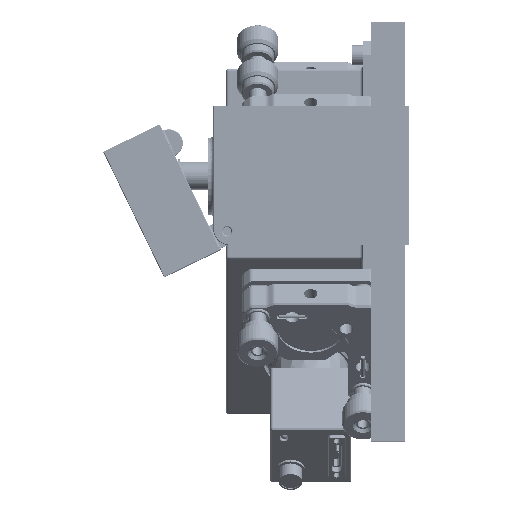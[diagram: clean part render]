
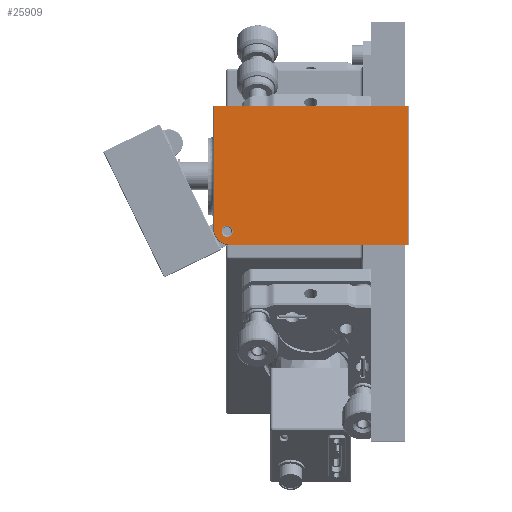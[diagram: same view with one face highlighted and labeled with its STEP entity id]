
A CAD part, top view. The second image highlights one B-rep face of the part: STEP entity #25909.
In plain terms, the highlighted planar face has unit normal (0, 0, 1).
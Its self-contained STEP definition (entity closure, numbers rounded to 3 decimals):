
#4674 = FACE_BOUND ( 'NONE', #111087, .T. ) ;
#7038 = VERTEX_POINT ( 'NONE', #43471 ) ;
#14114 = EDGE_CURVE ( 'NONE', #21475, #86491, #111785, .T. ) ;
#15021 = EDGE_CURVE ( 'NONE', #7038, #158577, #254193, .T. ) ;
#17089 = LINE ( 'NONE', #37404, #104243 ) ;
#19006 = DIRECTION ( 'NONE',  ( 0., -1., 0. ) ) ;
#21475 = VERTEX_POINT ( 'NONE', #136136 ) ;
#21626 = CIRCLE ( 'NONE', #235692, 5.8 ) ;
#22809 = DIRECTION ( 'NONE',  ( 0., 0., -1. ) ) ;
#25909 = ADVANCED_FACE ( 'NONE', ( #235804, #4674 ), #338664, .F. ) ;
#26441 = DIRECTION ( 'NONE',  ( 0., 0., -1. ) ) ;
#27231 = ORIENTED_EDGE ( 'NONE', *, *, #273400, .T. ) ;
#27254 = AXIS2_PLACEMENT_3D ( 'NONE', #217719, #22809, #216543 ) ;
#27588 = ORIENTED_EDGE ( 'NONE', *, *, #92482, .T. ) ;
#29253 = EDGE_CURVE ( 'NONE', #185276, #7038, #174816, .T. ) ;
#37404 = CARTESIAN_POINT ( 'NONE',  ( -34.8, 25., 46.665 ) ) ;
#43471 = CARTESIAN_POINT ( 'NONE',  ( 34.8, 24.8, 46.665 ) ) ;
#48439 = CARTESIAN_POINT ( 'NONE',  ( 34.8, 25., 46.665 ) ) ;
#53083 = DIRECTION ( 'NONE',  ( 0., 0., 1. ) ) ;
#72947 = ORIENTED_EDGE ( 'NONE', *, *, #29253, .T. ) ;
#77542 = DIRECTION ( 'NONE',  ( -1., 0., 0. ) ) ;
#83731 = EDGE_CURVE ( 'NONE', #151173, #299128, #21626, .T. ) ;
#85083 = CARTESIAN_POINT ( 'NONE',  ( -34.8, -19., 46.665 ) ) ;
#86491 = VERTEX_POINT ( 'NONE', #89444 ) ;
#89444 = CARTESIAN_POINT ( 'NONE',  ( -28., -20., 46.665 ) ) ;
#90288 = DIRECTION ( 'NONE',  ( -1., 0., 0. ) ) ;
#91473 = CARTESIAN_POINT ( 'NONE',  ( 35., 25., 46.665 ) ) ;
#92482 = EDGE_CURVE ( 'NONE', #86491, #21475, #192738, .T. ) ;
#99158 = LINE ( 'NONE', #226530, #181944 ) ;
#104243 = VECTOR ( 'NONE', #19006, 1000. ) ;
#111087 = EDGE_LOOP ( 'NONE', ( #258241, #27588 ) ) ;
#111266 = AXIS2_PLACEMENT_3D ( 'NONE', #277414, #26441, #328510 ) ;
#111785 = CIRCLE ( 'NONE', #111266, 2. ) ;
#131248 = EDGE_LOOP ( 'NONE', ( #302263, #27231, #72947, #224964, #275376 ) ) ;
#135472 = DIRECTION ( 'NONE',  ( -1., 0., 0. ) ) ;
#136136 = CARTESIAN_POINT ( 'NONE',  ( -32., -20., 46.665 ) ) ;
#137275 = EDGE_CURVE ( 'NONE', #158577, #151173, #17089, .T. ) ;
#151173 = VERTEX_POINT ( 'NONE', #85083 ) ;
#158318 = VECTOR ( 'NONE', #135472, 1000. ) ;
#158577 = VERTEX_POINT ( 'NONE', #202589 ) ;
#164251 = CARTESIAN_POINT ( 'NONE',  ( 34.8, -24.8, 46.665 ) ) ;
#174816 = LINE ( 'NONE', #48439, #226985 ) ;
#181944 = VECTOR ( 'NONE', #342015, 1000. ) ;
#185276 = VERTEX_POINT ( 'NONE', #164251 ) ;
#192738 = CIRCLE ( 'NONE', #27254, 2. ) ;
#202589 = CARTESIAN_POINT ( 'NONE',  ( -34.8, 24.8, 46.665 ) ) ;
#216543 = DIRECTION ( 'NONE',  ( -1., 0., 0. ) ) ;
#217719 = CARTESIAN_POINT ( 'NONE',  ( -30., -20., 46.665 ) ) ;
#224964 = ORIENTED_EDGE ( 'NONE', *, *, #15021, .T. ) ;
#226530 = CARTESIAN_POINT ( 'NONE',  ( 35., -24.8, 46.665 ) ) ;
#226985 = VECTOR ( 'NONE', #359000, 1000. ) ;
#235692 = AXIS2_PLACEMENT_3D ( 'NONE', #331998, #53083, #77542 ) ;
#235804 = FACE_OUTER_BOUND ( 'NONE', #131248, .T. ) ;
#254193 = LINE ( 'NONE', #329009, #158318 ) ;
#257262 = DIRECTION ( 'NONE',  ( 0., 0., -1. ) ) ;
#258241 = ORIENTED_EDGE ( 'NONE', *, *, #14114, .T. ) ;
#273400 = EDGE_CURVE ( 'NONE', #299128, #185276, #99158, .T. ) ;
#275376 = ORIENTED_EDGE ( 'NONE', *, *, #137275, .T. ) ;
#277414 = CARTESIAN_POINT ( 'NONE',  ( -30., -20., 46.665 ) ) ;
#280890 = CARTESIAN_POINT ( 'NONE',  ( -29., -24.8, 46.665 ) ) ;
#283562 = AXIS2_PLACEMENT_3D ( 'NONE', #91473, #257262, #90288 ) ;
#299128 = VERTEX_POINT ( 'NONE', #280890 ) ;
#302263 = ORIENTED_EDGE ( 'NONE', *, *, #83731, .T. ) ;
#328510 = DIRECTION ( 'NONE',  ( -1., 0., 0. ) ) ;
#329009 = CARTESIAN_POINT ( 'NONE',  ( 35., 24.8, 46.665 ) ) ;
#331998 = CARTESIAN_POINT ( 'NONE',  ( -29., -19., 46.665 ) ) ;
#338664 = PLANE ( 'NONE',  #283562 ) ;
#342015 = DIRECTION ( 'NONE',  ( 1., 0., 0. ) ) ;
#359000 = DIRECTION ( 'NONE',  ( 0., 1., 0. ) ) ;
